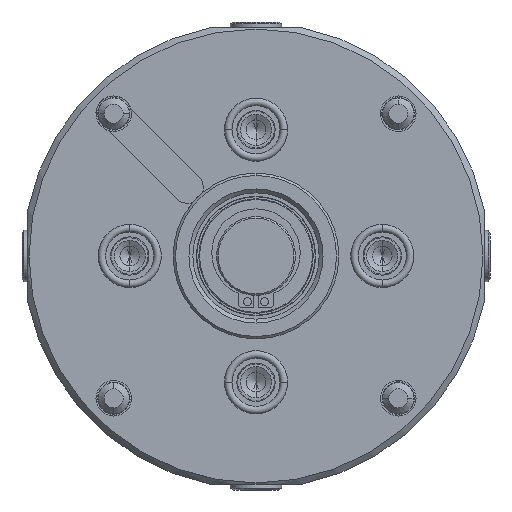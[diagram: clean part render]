
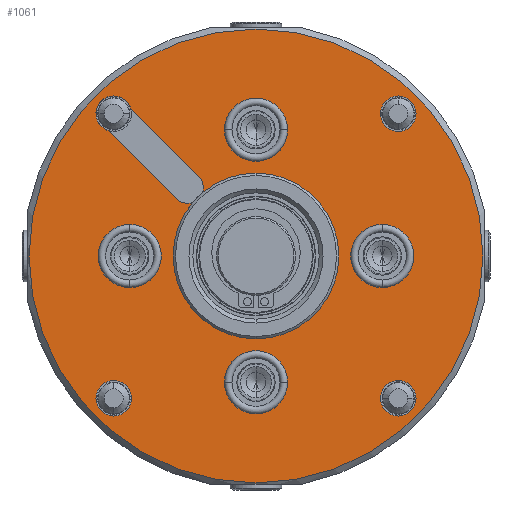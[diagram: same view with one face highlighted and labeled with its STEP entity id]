
A CAD part, front view. The second image highlights one B-rep face of the part: STEP entity #1061.
In plain terms, the highlighted planar face has unit normal (0, -1, 0).
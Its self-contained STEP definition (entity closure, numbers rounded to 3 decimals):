
#777=CARTESIAN_POINT('',(0.0,-32.857,-21.0));
#778=VERTEX_POINT('',#777);
#794=CARTESIAN_POINT('',(0.0,-32.857,21.0));
#795=VERTEX_POINT('',#794);
#802=CARTESIAN_POINT('',(-13.529,-32.857,16.062));
#803=VERTEX_POINT('',#802);
#804=CARTESIAN_POINT('',(0.0,-32.857,0.0));
#805=DIRECTION('',(0.0,1.0,0.0));
#806=DIRECTION('',(0.0,0.0,1.0));
#807=AXIS2_PLACEMENT_3D('',#804,#805,#806);
#808=CIRCLE('',#807,21.0);
#809=EDGE_CURVE('no 2600',#803,#795,#808,.T.);
#811=CARTESIAN_POINT('',(-16.062,-32.857,13.529));
#812=VERTEX_POINT('',#811);
#820=CARTESIAN_POINT('',(0.0,-32.857,0.0));
#821=DIRECTION('',(0.0,1.0,0.0));
#822=DIRECTION('',(0.0,0.0,1.0));
#823=AXIS2_PLACEMENT_3D('',#820,#821,#822);
#824=CIRCLE('',#823,21.0);
#825=EDGE_CURVE('no 2610',#778,#812,#824,.T.);
#835=CARTESIAN_POINT('',(-20.153,-32.857,14.496));
#836=VERTEX_POINT('',#835);
#837=CARTESIAN_POINT('',(-17.324,-32.857,17.324));
#838=DIRECTION('',(0.0,-1.0,0.0));
#839=DIRECTION('',(0.0,0.0,-1.0));
#840=AXIS2_PLACEMENT_3D('',#837,#838,#839);
#841=CIRCLE('',#840,4.0);
#842=EDGE_CURVE('no 2619',#836,#812,#841,.T.);
#843=ORIENTED_EDGE('',*,*,#842,.F.);
#844=CARTESIAN_POINT('',(-37.433,-32.857,31.776));
#845=VERTEX_POINT('',#844);
#846=CARTESIAN_POINT('',(-37.433,-32.857,31.776));
#847=DIRECTION('',(0.707,0.0,-0.707));
#848=VECTOR('',#847,1.0);
#849=LINE('',#846,#848);
#850=EDGE_CURVE('no 2625',#845,#836,#849,.T.);
#851=ORIENTED_EDGE('',*,*,#850,.F.);
#852=CARTESIAN_POINT('',(-36.062,-32.857,40.562));
#853=VERTEX_POINT('',#852);
#854=CARTESIAN_POINT('',(-36.062,-32.857,36.062));
#855=DIRECTION('',(0.0,-1.0,0.0));
#856=DIRECTION('',(0.0,0.0,-1.0));
#857=AXIS2_PLACEMENT_3D('',#854,#855,#856);
#858=CIRCLE('',#857,4.5);
#859=EDGE_CURVE('no 2631',#853,#845,#858,.T.);
#860=ORIENTED_EDGE('',*,*,#859,.F.);
#861=CARTESIAN_POINT('',(-31.776,-32.857,37.433));
#862=VERTEX_POINT('',#861);
#863=CARTESIAN_POINT('',(-36.062,-32.857,36.062));
#864=DIRECTION('',(0.0,-1.0,0.0));
#865=DIRECTION('',(0.0,0.0,-1.0));
#866=AXIS2_PLACEMENT_3D('',#863,#864,#865);
#867=CIRCLE('',#866,4.5);
#868=EDGE_CURVE('no 2637',#862,#853,#867,.T.);
#869=ORIENTED_EDGE('',*,*,#868,.F.);
#870=CARTESIAN_POINT('',(-14.496,-32.857,20.153));
#871=VERTEX_POINT('',#870);
#872=CARTESIAN_POINT('',(-31.776,-32.857,37.433));
#873=DIRECTION('',(-0.707,0.0,0.707));
#874=VECTOR('',#873,1.0);
#875=LINE('',#872,#874);
#876=EDGE_CURVE('no 2643',#871,#862,#875,.T.);
#877=ORIENTED_EDGE('',*,*,#876,.F.);
#878=CARTESIAN_POINT('',(-17.324,-32.857,17.324));
#879=DIRECTION('',(0.0,-1.0,0.0));
#880=DIRECTION('',(0.0,0.0,-1.0));
#881=AXIS2_PLACEMENT_3D('',#878,#879,#880);
#882=CIRCLE('',#881,4.0);
#883=EDGE_CURVE('no 2647',#803,#871,#882,.T.);
#884=ORIENTED_EDGE('',*,*,#883,.F.);
#885=ORIENTED_EDGE('',*,*,#809,.T.);
#886=CARTESIAN_POINT('',(0.0,-32.857,0.0));
#887=DIRECTION('',(0.0,1.0,0.0));
#888=DIRECTION('',(0.0,0.0,1.0));
#889=AXIS2_PLACEMENT_3D('',#886,#887,#888);
#890=CIRCLE('',#889,21.0);
#891=EDGE_CURVE('no 2653',#795,#778,#890,.T.);
#892=ORIENTED_EDGE('',*,*,#891,.T.);
#893=ORIENTED_EDGE('',*,*,#825,.T.);
#894=EDGE_LOOP('',(#843,#851,#860,#869,#877,#884,#885,#892,#893));
#895=FACE_BOUND('',#894,.T.);
#896=CARTESIAN_POINT('',(-36.062,-32.857,-31.562));
#897=VERTEX_POINT('',#896);
#898=CARTESIAN_POINT('',(-36.062,-32.857,-40.562));
#899=VERTEX_POINT('',#898);
#900=CARTESIAN_POINT('',(-36.062,-32.857,-36.062));
#901=DIRECTION('',(0.0,-1.0,0.0));
#902=DIRECTION('',(0.0,0.0,-1.0));
#903=AXIS2_PLACEMENT_3D('',#900,#901,#902);
#904=CIRCLE('',#903,4.5);
#905=EDGE_CURVE('no 2664',#897,#899,#904,.T.);
#906=ORIENTED_EDGE('',*,*,#905,.F.);
#907=CARTESIAN_POINT('',(-36.062,-32.857,-36.062));
#908=DIRECTION('',(0.0,-1.0,0.0));
#909=DIRECTION('',(0.0,0.0,-1.0));
#910=AXIS2_PLACEMENT_3D('',#907,#908,#909);
#911=CIRCLE('',#910,4.5);
#912=EDGE_CURVE('no 2668',#899,#897,#911,.T.);
#913=ORIENTED_EDGE('',*,*,#912,.F.);
#914=EDGE_LOOP('',(#906,#913));
#915=FACE_BOUND('',#914,.T.);
#916=CARTESIAN_POINT('',(36.062,-32.857,-31.562));
#917=VERTEX_POINT('',#916);
#918=CARTESIAN_POINT('',(36.062,-32.857,-40.562));
#919=VERTEX_POINT('',#918);
#920=CARTESIAN_POINT('',(36.062,-32.857,-36.062));
#921=DIRECTION('',(0.0,-1.0,0.0));
#922=DIRECTION('',(0.0,0.0,-1.0));
#923=AXIS2_PLACEMENT_3D('',#920,#921,#922);
#924=CIRCLE('',#923,4.5);
#925=EDGE_CURVE('no 2677',#917,#919,#924,.T.);
#926=ORIENTED_EDGE('',*,*,#925,.F.);
#927=CARTESIAN_POINT('',(36.062,-32.857,-36.062));
#928=DIRECTION('',(0.0,-1.0,0.0));
#929=DIRECTION('',(0.0,0.0,-1.0));
#930=AXIS2_PLACEMENT_3D('',#927,#928,#929);
#931=CIRCLE('',#930,4.5);
#932=EDGE_CURVE('no 2681',#919,#917,#931,.T.);
#933=ORIENTED_EDGE('',*,*,#932,.F.);
#934=EDGE_LOOP('',(#926,#933));
#935=FACE_BOUND('',#934,.T.);
#936=CARTESIAN_POINT('',(36.062,-32.857,40.562));
#937=VERTEX_POINT('',#936);
#938=CARTESIAN_POINT('',(36.062,-32.857,31.562));
#939=VERTEX_POINT('',#938);
#940=CARTESIAN_POINT('',(36.062,-32.857,36.062));
#941=DIRECTION('',(0.0,-1.0,0.0));
#942=DIRECTION('',(0.0,0.0,-1.0));
#943=AXIS2_PLACEMENT_3D('',#940,#941,#942);
#944=CIRCLE('',#943,4.5);
#945=EDGE_CURVE('no 2690',#937,#939,#944,.T.);
#946=ORIENTED_EDGE('',*,*,#945,.F.);
#947=CARTESIAN_POINT('',(36.062,-32.857,36.062));
#948=DIRECTION('',(0.0,-1.0,0.0));
#949=DIRECTION('',(0.0,0.0,-1.0));
#950=AXIS2_PLACEMENT_3D('',#947,#948,#949);
#951=CIRCLE('',#950,4.5);
#952=EDGE_CURVE('no 2694',#939,#937,#951,.T.);
#953=ORIENTED_EDGE('',*,*,#952,.F.);
#954=EDGE_LOOP('',(#946,#953));
#955=FACE_BOUND('',#954,.T.);
#956=CARTESIAN_POINT('',(-32.0,-32.857,8.0));
#957=VERTEX_POINT('',#956);
#958=CARTESIAN_POINT('',(-32.0,-32.857,-8.0));
#959=VERTEX_POINT('',#958);
#960=CARTESIAN_POINT('',(-32.0,-32.857,0.0));
#961=DIRECTION('',(0.0,-1.0,0.0));
#962=DIRECTION('',(0.0,0.0,-1.0));
#963=AXIS2_PLACEMENT_3D('',#960,#961,#962);
#964=CIRCLE('',#963,8.0);
#965=EDGE_CURVE('no 2703',#957,#959,#964,.T.);
#966=ORIENTED_EDGE('',*,*,#965,.F.);
#967=CARTESIAN_POINT('',(-32.0,-32.857,0.0));
#968=DIRECTION('',(0.0,-1.0,0.0));
#969=DIRECTION('',(0.0,0.0,-1.0));
#970=AXIS2_PLACEMENT_3D('',#967,#968,#969);
#971=CIRCLE('',#970,8.0);
#972=EDGE_CURVE('no 2707',#959,#957,#971,.T.);
#973=ORIENTED_EDGE('',*,*,#972,.F.);
#974=EDGE_LOOP('',(#966,#973));
#975=FACE_BOUND('',#974,.T.);
#976=CARTESIAN_POINT('',(0.0,-32.857,-24.0));
#977=VERTEX_POINT('',#976);
#978=CARTESIAN_POINT('',(0.0,-32.857,-40.0));
#979=VERTEX_POINT('',#978);
#980=CARTESIAN_POINT('',(0.0,-32.857,-32.0));
#981=DIRECTION('',(0.0,-1.0,0.0));
#982=DIRECTION('',(0.0,0.0,-1.0));
#983=AXIS2_PLACEMENT_3D('',#980,#981,#982);
#984=CIRCLE('',#983,8.0);
#985=EDGE_CURVE('no 2716',#977,#979,#984,.T.);
#986=ORIENTED_EDGE('',*,*,#985,.F.);
#987=CARTESIAN_POINT('',(0.0,-32.857,-32.0));
#988=DIRECTION('',(0.0,-1.0,0.0));
#989=DIRECTION('',(0.0,0.0,-1.0));
#990=AXIS2_PLACEMENT_3D('',#987,#988,#989);
#991=CIRCLE('',#990,8.0);
#992=EDGE_CURVE('no 2720',#979,#977,#991,.T.);
#993=ORIENTED_EDGE('',*,*,#992,.F.);
#994=EDGE_LOOP('',(#986,#993));
#995=FACE_BOUND('',#994,.T.);
#996=CARTESIAN_POINT('',(32.0,-32.857,8.0));
#997=VERTEX_POINT('',#996);
#998=CARTESIAN_POINT('',(32.0,-32.857,-8.0));
#999=VERTEX_POINT('',#998);
#1000=CARTESIAN_POINT('',(32.0,-32.857,-0.0));
#1001=DIRECTION('',(0.0,-1.0,0.0));
#1002=DIRECTION('',(0.0,0.0,-1.0));
#1003=AXIS2_PLACEMENT_3D('',#1000,#1001,#1002);
#1004=CIRCLE('',#1003,8.0);
#1005=EDGE_CURVE('no 2729',#997,#999,#1004,.T.);
#1006=ORIENTED_EDGE('',*,*,#1005,.F.);
#1007=CARTESIAN_POINT('',(32.0,-32.857,-0.0));
#1008=DIRECTION('',(0.0,-1.0,0.0));
#1009=DIRECTION('',(0.0,0.0,-1.0));
#1010=AXIS2_PLACEMENT_3D('',#1007,#1008,#1009);
#1011=CIRCLE('',#1010,8.0);
#1012=EDGE_CURVE('no 2733',#999,#997,#1011,.T.);
#1013=ORIENTED_EDGE('',*,*,#1012,.F.);
#1014=EDGE_LOOP('',(#1006,#1013));
#1015=FACE_BOUND('',#1014,.T.);
#1016=CARTESIAN_POINT('',(0.0,-32.857,40.0));
#1017=VERTEX_POINT('',#1016);
#1018=CARTESIAN_POINT('',(0.0,-32.857,24.0));
#1019=VERTEX_POINT('',#1018);
#1020=CARTESIAN_POINT('',(0.0,-32.857,32.0));
#1021=DIRECTION('',(0.0,-1.0,0.0));
#1022=DIRECTION('',(0.0,0.0,-1.0));
#1023=AXIS2_PLACEMENT_3D('',#1020,#1021,#1022);
#1024=CIRCLE('',#1023,8.0);
#1025=EDGE_CURVE('no 2742',#1017,#1019,#1024,.T.);
#1026=ORIENTED_EDGE('',*,*,#1025,.F.);
#1027=CARTESIAN_POINT('',(0.0,-32.857,32.0));
#1028=DIRECTION('',(0.0,-1.0,0.0));
#1029=DIRECTION('',(0.0,0.0,-1.0));
#1030=AXIS2_PLACEMENT_3D('',#1027,#1028,#1029);
#1031=CIRCLE('',#1030,8.0);
#1032=EDGE_CURVE('no 2746',#1019,#1017,#1031,.T.);
#1033=ORIENTED_EDGE('',*,*,#1032,.F.);
#1034=EDGE_LOOP('',(#1026,#1033));
#1035=FACE_BOUND('',#1034,.T.);
#1036=CARTESIAN_POINT('',(0.0,-32.857,-57.5));
#1037=VERTEX_POINT('',#1036);
#1038=CARTESIAN_POINT('',(0.0,-32.857,57.5));
#1039=VERTEX_POINT('',#1038);
#1040=CARTESIAN_POINT('',(0.0,-32.857,0.0));
#1041=DIRECTION('',(0.0,-1.0,0.0));
#1042=DIRECTION('',(0.0,0.0,-1.0));
#1043=AXIS2_PLACEMENT_3D('',#1040,#1041,#1042);
#1044=CIRCLE('',#1043,57.5);
#1045=EDGE_CURVE('no 2755',#1037,#1039,#1044,.T.);
#1046=ORIENTED_EDGE('',*,*,#1045,.T.);
#1047=CARTESIAN_POINT('',(0.0,-32.857,0.0));
#1048=DIRECTION('',(0.0,-1.0,0.0));
#1049=DIRECTION('',(0.0,0.0,-1.0));
#1050=AXIS2_PLACEMENT_3D('',#1047,#1048,#1049);
#1051=CIRCLE('',#1050,57.5);
#1052=EDGE_CURVE('no 2759',#1039,#1037,#1051,.T.);
#1053=ORIENTED_EDGE('',*,*,#1052,.T.);
#1054=EDGE_LOOP('',(#1046,#1053));
#1055=FACE_OUTER_BOUND('',#1054,.T.);
#1056=CARTESIAN_POINT('',(-59.0,-32.857,0.0));
#1057=DIRECTION('',(0.0,-1.0,0.0));
#1058=DIRECTION('',(0.0,0.0,-1.0));
#1059=AXIS2_PLACEMENT_3D('',#1056,#1057,#1058);
#1060=PLANE('',#1059);
#1061=ADVANCED_FACE('no 2612',(#895,#915,#935,#955,#975,#995,#1015,#1035,#1055),#1060,.T.);
